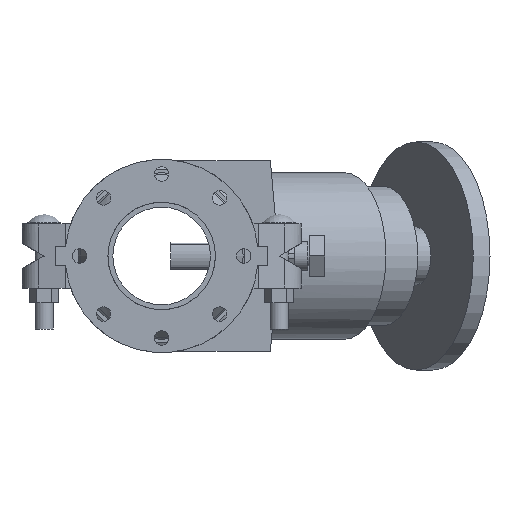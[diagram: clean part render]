
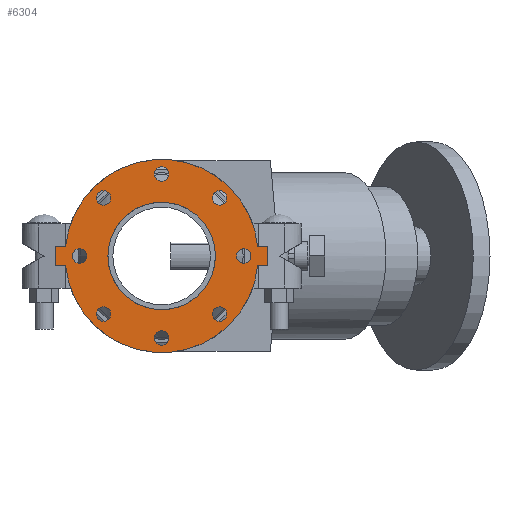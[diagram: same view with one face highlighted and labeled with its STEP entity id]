
A CAD part, front view. The second image highlights one B-rep face of the part: STEP entity #6304.
In plain terms, the highlighted planar face has unit normal (0, -1, 0) as drawn and (0, 0, 1) by its records, which use the part's own axes.
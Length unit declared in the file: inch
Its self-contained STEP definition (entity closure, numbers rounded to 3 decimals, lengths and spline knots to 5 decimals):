
#179=FACE_BOUND('',#821,.T.);
#180=FACE_BOUND('',#822,.T.);
#181=FACE_BOUND('',#823,.T.);
#182=FACE_BOUND('',#824,.T.);
#183=FACE_BOUND('',#825,.T.);
#184=FACE_BOUND('',#826,.T.);
#185=FACE_BOUND('',#827,.T.);
#186=FACE_BOUND('',#828,.T.);
#187=FACE_BOUND('',#829,.T.);
#254=PLANE('',#6873);
#465=FACE_OUTER_BOUND('',#820,.T.);
#820=EDGE_LOOP('',(#4105,#4106,#4107,#4108,#4109,#4110,#4111,#4112));
#821=EDGE_LOOP('',(#4113));
#822=EDGE_LOOP('',(#4114));
#823=EDGE_LOOP('',(#4115));
#824=EDGE_LOOP('',(#4116));
#825=EDGE_LOOP('',(#4117));
#826=EDGE_LOOP('',(#4118));
#827=EDGE_LOOP('',(#4119));
#828=EDGE_LOOP('',(#4120));
#829=EDGE_LOOP('',(#4121,#4122));
#1236=LINE('',#9652,#1702);
#1237=LINE('',#9655,#1703);
#1240=LINE('',#9660,#1706);
#1241=LINE('',#9663,#1707);
#1243=LINE('',#9666,#1709);
#1244=LINE('',#9668,#1710);
#1702=VECTOR('',#7682,0.3937);
#1703=VECTOR('',#7685,0.3937);
#1706=VECTOR('',#7690,0.3937);
#1707=VECTOR('',#7693,0.3937);
#1709=VECTOR('',#7697,0.3937);
#1710=VECTOR('',#7700,0.3937);
#2148=CIRCLE('',#6832,0.375);
#2150=CIRCLE('',#6835,0.375);
#2152=CIRCLE('',#6838,0.375);
#2154=CIRCLE('',#6841,0.375);
#2156=CIRCLE('',#6844,0.375);
#2158=CIRCLE('',#6847,0.375);
#2160=CIRCLE('',#6850,0.375);
#2162=CIRCLE('',#6853,0.375);
#2168=CIRCLE('',#6861,5.);
#2169=CIRCLE('',#6863,2.7815);
#2170=CIRCLE('',#6864,2.7815);
#2171=CIRCLE('',#6866,5.);
#2510=VERTEX_POINT('',#9563);
#2512=VERTEX_POINT('',#9569);
#2514=VERTEX_POINT('',#9575);
#2516=VERTEX_POINT('',#9581);
#2518=VERTEX_POINT('',#9587);
#2520=VERTEX_POINT('',#9593);
#2522=VERTEX_POINT('',#9599);
#2524=VERTEX_POINT('',#9605);
#2536=VERTEX_POINT('',#9632);
#2537=VERTEX_POINT('',#9634);
#2538=VERTEX_POINT('',#9638);
#2539=VERTEX_POINT('',#9640);
#2540=VERTEX_POINT('',#9644);
#2541=VERTEX_POINT('',#9646);
#2542=VERTEX_POINT('',#9650);
#2543=VERTEX_POINT('',#9654);
#2544=VERTEX_POINT('',#9658);
#2545=VERTEX_POINT('',#9662);
#3120=EDGE_CURVE('',#2510,#2510,#2148,.T.);
#3123=EDGE_CURVE('',#2512,#2512,#2150,.T.);
#3126=EDGE_CURVE('',#2514,#2514,#2152,.T.);
#3129=EDGE_CURVE('',#2516,#2516,#2154,.T.);
#3132=EDGE_CURVE('',#2518,#2518,#2156,.T.);
#3135=EDGE_CURVE('',#2520,#2520,#2158,.T.);
#3138=EDGE_CURVE('',#2522,#2522,#2160,.T.);
#3141=EDGE_CURVE('',#2524,#2524,#2162,.T.);
#3156=EDGE_CURVE('',#2536,#2537,#2168,.T.);
#3158=EDGE_CURVE('',#2539,#2538,#2169,.T.);
#3159=EDGE_CURVE('',#2538,#2539,#2170,.T.);
#3161=EDGE_CURVE('',#2541,#2540,#2171,.T.);
#3164=EDGE_CURVE('',#2537,#2542,#1236,.T.);
#3165=EDGE_CURVE('',#2543,#2541,#1237,.T.);
#3168=EDGE_CURVE('',#2540,#2544,#1240,.T.);
#3169=EDGE_CURVE('',#2545,#2536,#1241,.T.);
#3171=EDGE_CURVE('',#2544,#2545,#1243,.T.);
#3172=EDGE_CURVE('',#2542,#2543,#1244,.T.);
#4105=ORIENTED_EDGE('',*,*,#3168,.T.);
#4106=ORIENTED_EDGE('',*,*,#3171,.T.);
#4107=ORIENTED_EDGE('',*,*,#3169,.T.);
#4108=ORIENTED_EDGE('',*,*,#3156,.T.);
#4109=ORIENTED_EDGE('',*,*,#3164,.T.);
#4110=ORIENTED_EDGE('',*,*,#3172,.T.);
#4111=ORIENTED_EDGE('',*,*,#3165,.T.);
#4112=ORIENTED_EDGE('',*,*,#3161,.T.);
#4113=ORIENTED_EDGE('',*,*,#3120,.T.);
#4114=ORIENTED_EDGE('',*,*,#3123,.T.);
#4115=ORIENTED_EDGE('',*,*,#3126,.T.);
#4116=ORIENTED_EDGE('',*,*,#3129,.T.);
#4117=ORIENTED_EDGE('',*,*,#3132,.T.);
#4118=ORIENTED_EDGE('',*,*,#3135,.T.);
#4119=ORIENTED_EDGE('',*,*,#3138,.T.);
#4120=ORIENTED_EDGE('',*,*,#3141,.T.);
#4121=ORIENTED_EDGE('',*,*,#3158,.T.);
#4122=ORIENTED_EDGE('',*,*,#3159,.T.);
#6304=ADVANCED_FACE('',(#465,#179,#180,#181,#182,#183,#184,#185,#186,#187),
#254,.T.);
#6832=AXIS2_PLACEMENT_3D('',#9564,#7590,#7591);
#6835=AXIS2_PLACEMENT_3D('',#9570,#7597,#7598);
#6838=AXIS2_PLACEMENT_3D('',#9576,#7604,#7605);
#6841=AXIS2_PLACEMENT_3D('',#9582,#7611,#7612);
#6844=AXIS2_PLACEMENT_3D('',#9588,#7618,#7619);
#6847=AXIS2_PLACEMENT_3D('',#9594,#7625,#7626);
#6850=AXIS2_PLACEMENT_3D('',#9600,#7632,#7633);
#6853=AXIS2_PLACEMENT_3D('',#9606,#7639,#7640);
#6861=AXIS2_PLACEMENT_3D('',#9636,#7664,#7665);
#6863=AXIS2_PLACEMENT_3D('',#9641,#7669,#7670);
#6864=AXIS2_PLACEMENT_3D('',#9642,#7671,#7672);
#6866=AXIS2_PLACEMENT_3D('',#9647,#7676,#7677);
#6873=AXIS2_PLACEMENT_3D('',#9669,#7701,#7702);
#7590=DIRECTION('center_axis',(0.,0.,-1.));
#7591=DIRECTION('ref_axis',(-0.707,0.707,0.));
#7597=DIRECTION('center_axis',(0.,0.,-1.));
#7598=DIRECTION('ref_axis',(0.,1.,0.));
#7604=DIRECTION('center_axis',(0.,0.,-1.));
#7605=DIRECTION('ref_axis',(0.707,0.707,0.));
#7611=DIRECTION('center_axis',(0.,0.,-1.));
#7612=DIRECTION('ref_axis',(1.,0.,0.));
#7618=DIRECTION('center_axis',(0.,0.,-1.));
#7619=DIRECTION('ref_axis',(0.707,-0.707,0.));
#7625=DIRECTION('center_axis',(0.,0.,-1.));
#7626=DIRECTION('ref_axis',(0.,-1.,0.));
#7632=DIRECTION('center_axis',(0.,0.,-1.));
#7633=DIRECTION('ref_axis',(-0.707,-0.707,0.));
#7639=DIRECTION('center_axis',(0.,0.,-1.));
#7640=DIRECTION('ref_axis',(-1.,0.,0.));
#7664=DIRECTION('center_axis',(0.,0.,1.));
#7665=DIRECTION('ref_axis',(-1.,0.,0.));
#7669=DIRECTION('center_axis',(0.,0.,-1.));
#7670=DIRECTION('ref_axis',(-1.,0.,0.));
#7671=DIRECTION('center_axis',(0.,0.,-1.));
#7672=DIRECTION('ref_axis',(-1.,0.,0.));
#7676=DIRECTION('center_axis',(0.,0.,1.));
#7677=DIRECTION('ref_axis',(-1.,0.,0.));
#7682=DIRECTION('',(0.,1.,0.));
#7685=DIRECTION('',(0.,-1.,0.));
#7690=DIRECTION('',(0.,-1.,0.));
#7693=DIRECTION('',(0.,1.,0.));
#7697=DIRECTION('',(1.,0.,0.));
#7700=DIRECTION('',(-1.,0.,0.));
#7701=DIRECTION('center_axis',(0.,0.,1.));
#7702=DIRECTION('ref_axis',(1.,0.,0.));
#9563=CARTESIAN_POINT('',(-2.74004,2.74004,0.5));
#9564=CARTESIAN_POINT('Origin',(-3.0052,3.0052,0.5));
#9569=CARTESIAN_POINT('',(0.,3.875,0.5));
#9570=CARTESIAN_POINT('Origin',(0.,4.25,0.5));
#9575=CARTESIAN_POINT('',(2.74004,2.74004,0.5));
#9576=CARTESIAN_POINT('Origin',(3.0052,3.0052,0.5));
#9581=CARTESIAN_POINT('',(3.875,0.,0.5));
#9582=CARTESIAN_POINT('Origin',(4.25,0.,0.5));
#9587=CARTESIAN_POINT('',(2.74004,-2.74004,0.5));
#9588=CARTESIAN_POINT('Origin',(3.0052,-3.0052,0.5));
#9593=CARTESIAN_POINT('',(0.,-3.875,0.5));
#9594=CARTESIAN_POINT('Origin',(0.,-4.25,0.5));
#9599=CARTESIAN_POINT('',(-2.74004,-2.74004,0.5));
#9600=CARTESIAN_POINT('Origin',(-3.0052,-3.0052,0.5));
#9605=CARTESIAN_POINT('',(-3.875,0.,0.5));
#9606=CARTESIAN_POINT('Origin',(-4.25,0.,0.5));
#9632=CARTESIAN_POINT('',(0.5,-4.97494,0.5));
#9634=CARTESIAN_POINT('',(0.5,4.97494,0.5));
#9636=CARTESIAN_POINT('Origin',(0.,0.,0.5));
#9638=CARTESIAN_POINT('',(2.7815,0.,0.5));
#9640=CARTESIAN_POINT('',(0.5,2.73619,0.5));
#9641=CARTESIAN_POINT('Origin',(0.,0.,0.5));
#9642=CARTESIAN_POINT('Origin',(0.,0.,0.5));
#9644=CARTESIAN_POINT('',(-0.5,-4.97494,0.5));
#9646=CARTESIAN_POINT('',(-0.5,4.97494,0.5));
#9647=CARTESIAN_POINT('Origin',(0.,0.,0.5));
#9650=CARTESIAN_POINT('',(0.5,5.5,0.5));
#9652=CARTESIAN_POINT('',(0.5,5.5,0.5));
#9654=CARTESIAN_POINT('',(-0.5,5.5,0.5));
#9655=CARTESIAN_POINT('',(-0.5,-5.5,0.5));
#9658=CARTESIAN_POINT('',(-0.5,-5.5,0.5));
#9660=CARTESIAN_POINT('',(-0.5,-5.5,0.5));
#9662=CARTESIAN_POINT('',(0.5,-5.5,0.5));
#9663=CARTESIAN_POINT('',(0.5,5.5,0.5));
#9666=CARTESIAN_POINT('',(0.5,-5.5,0.5));
#9668=CARTESIAN_POINT('',(-0.5,5.5,0.5));
#9669=CARTESIAN_POINT('Origin',(0.,0.,0.5));
